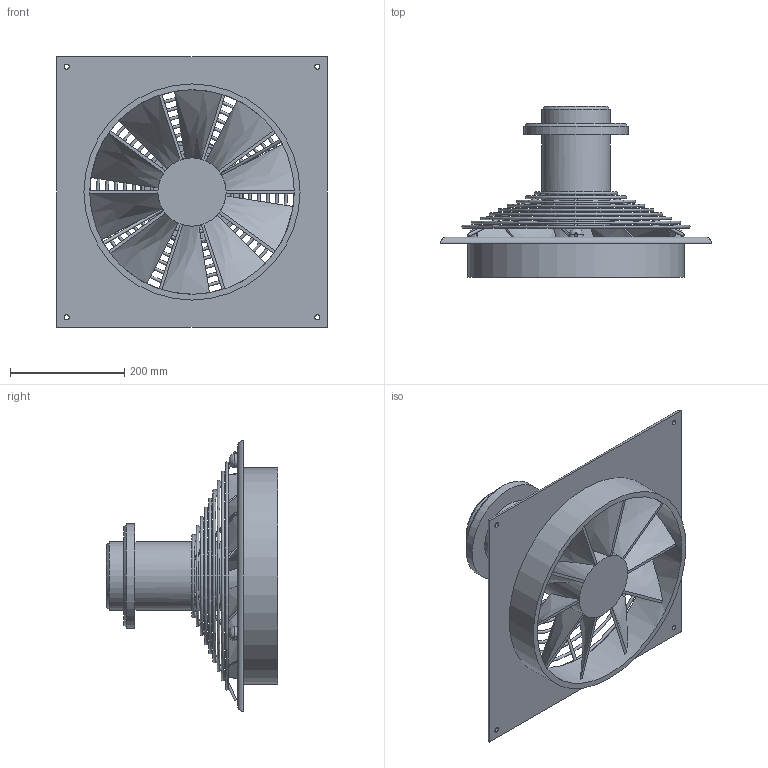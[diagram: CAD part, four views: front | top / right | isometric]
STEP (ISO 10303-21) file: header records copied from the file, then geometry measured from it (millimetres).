
FILE_DESCRIPTION(/* description */ (''),/* implementation_level */ '2;1');
FILE_NAME(/* name */ 'Z:\Output\HQD_355-2_EX-01151-001.stp',/* time_stamp */ '2017-05-11T09:32:46+02:00',/* author */ ('pareshmistry'),/* organization */ (''),/* preprocessor_version */ 'ST-DEVELOPER v16.5',/* originating_system */ 'Autodesk Inventor 2017',/* authorisation */ '');
FILE_SCHEMA (('AUTOMOTIVE_DESIGN { 1 0 10303 214 3 1 1 }'));
Length unit declared in the file: millimetre
Products named in the file (1): HQW EC 450
Bounding box: 475 x 300 x 475 mm (x, y, z)
Volume: 6023756.5 mm3; surface area: 948756.7 mm2
Topology: 10 solids, 10 shells, 132 faces, 378 edges, 246 vertices
Faces by surface type: bspline 53, plane 42, cylinder 26, torus 9, cone 2
Full cylindrical faces by diameter (mm): 5 x9, 9 x4, 25 x3, 119.667 x2, 182.55 x1, 359 x1, 379 x1
Entity records: 5140 total; most frequent: CARTESIAN_POINT 2245, ORIENTED_EDGE 654, DIRECTION 466, EDGE_CURVE 317, VERTEX_POINT 218, EDGE_LOOP 167, AXIS2_PLACEMENT_3D 164, LINE 138
